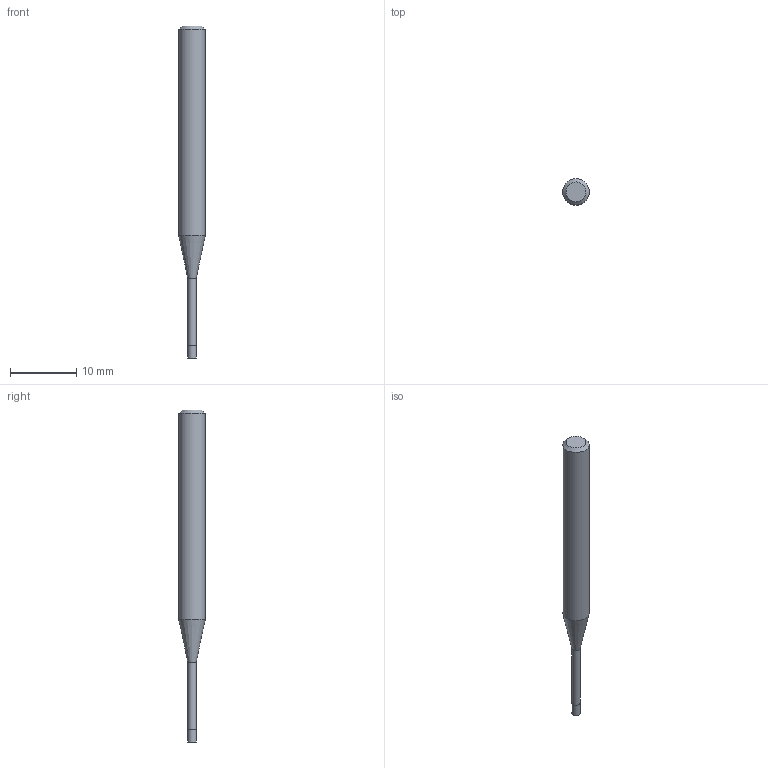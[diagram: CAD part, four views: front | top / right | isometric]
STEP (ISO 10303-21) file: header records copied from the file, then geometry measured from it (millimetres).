
FILE_DESCRIPTION((''),'2;1');
FILE_NAME('C:\Users\nsx150\AppData\Local\Temp\Mastercam 2021\17T8Q8S9EB\TEMP.step','2021-04-21T16:14:34',(''),(''),'STEP Write','Mastercam 2021 ... CNC Software, Inc.','');
FILE_SCHEMA(('AUTOMOTIVE_DESIGN'));
Length unit declared in the file: millimetre
Products named in the file (1): None
Bounding box: 4 x 4 x 50 mm (x, y, z)
Volume: 447.9 mm3; surface area: 510.6 mm2
Topology: 2 solids, 2 shells, 9 faces, 12 edges, 7 vertices
Faces by surface type: plane 4, cylinder 3, cone 2
Full cylindrical faces by diameter (mm): 1.25 x1, 1.3 x1, 4 x1
Entity records: 211 total; most frequent: DIRECTION 36, CARTESIAN_POINT 25, AXIS2_PLACEMENT_3D 18, ORIENTED_EDGE 14, EDGE_LOOP 14, STYLED_ITEM 12, ADVANCED_FACE 9, FACE_BOUND 8
